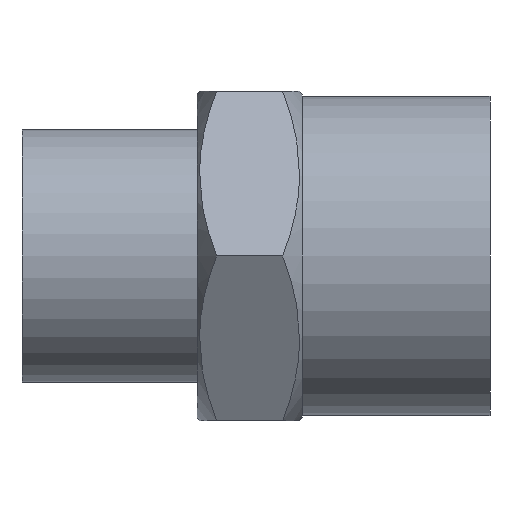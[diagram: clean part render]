
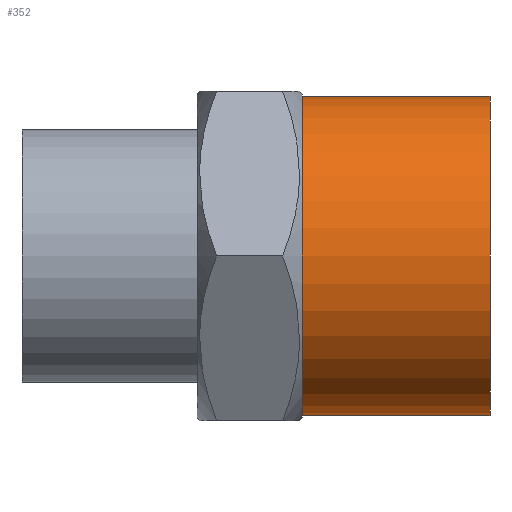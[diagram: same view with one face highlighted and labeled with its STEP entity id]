
A CAD part, left-side view. The second image highlights one B-rep face of the part: STEP entity #352.
In plain terms, the highlighted cylindrical face has radius 8.2 mm (diameter 16.4 mm), a partial arc.
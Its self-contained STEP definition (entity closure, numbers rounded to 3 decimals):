
#47 = VERTEX_POINT ( 'NONE', #343 ) ;
#57 = CIRCLE ( 'NONE', #729, 8.2 ) ;
#59 = EDGE_CURVE ( 'NONE', #47, #635, #483, .T. ) ;
#80 = CARTESIAN_POINT ( 'NONE',  ( 0., -9.66, 0. ) ) ;
#89 = DIRECTION ( 'NONE',  ( 0., -1., 0. ) ) ;
#94 = FACE_OUTER_BOUND ( 'NONE', #579, .T. ) ;
#99 = ORIENTED_EDGE ( 'NONE', *, *, #59, .F. ) ;
#102 = AXIS2_PLACEMENT_3D ( 'NONE', #344, #89, #754 ) ;
#120 = EDGE_CURVE ( 'NONE', #47, #626, #526, .T. ) ;
#161 = CARTESIAN_POINT ( 'NONE',  ( 0., 0., 8.2 ) ) ;
#229 = CARTESIAN_POINT ( 'NONE',  ( 0., -9.66, -8.2 ) ) ;
#231 = EDGE_CURVE ( 'NONE', #635, #840, #834, .T. ) ;
#249 = ORIENTED_EDGE ( 'NONE', *, *, #711, .T. ) ;
#309 = DIRECTION ( 'NONE',  ( 0., 0., -1. ) ) ;
#343 = CARTESIAN_POINT ( 'NONE',  ( 0., -9.66, 8.2 ) ) ;
#344 = CARTESIAN_POINT ( 'NONE',  ( 0., -9.66, 0. ) ) ;
#352 = ADVANCED_FACE ( 'NONE', ( #94 ), #564, .T. ) ;
#382 = CARTESIAN_POINT ( 'NONE',  ( 0., 0., 0. ) ) ;
#407 = CARTESIAN_POINT ( 'NONE',  ( 0., -9.66, 8.2 ) ) ;
#452 = AXIS2_PLACEMENT_3D ( 'NONE', #80, #806, #464 ) ;
#464 = DIRECTION ( 'NONE',  ( 0., 0., 1. ) ) ;
#483 = CIRCLE ( 'NONE', #102, 8.2 ) ;
#490 = ORIENTED_EDGE ( 'NONE', *, *, #120, .T. ) ;
#505 = VECTOR ( 'NONE', #745, 1000. ) ;
#526 = LINE ( 'NONE', #407, #505 ) ;
#564 = CYLINDRICAL_SURFACE ( 'NONE', #452, 8.2 ) ;
#579 = EDGE_LOOP ( 'NONE', ( #705, #99, #490, #249 ) ) ;
#622 = VECTOR ( 'NONE', #728, 1000. ) ;
#626 = VERTEX_POINT ( 'NONE', #161 ) ;
#632 = DIRECTION ( 'NONE',  ( 0., -1., 0. ) ) ;
#635 = VERTEX_POINT ( 'NONE', #229 ) ;
#705 = ORIENTED_EDGE ( 'NONE', *, *, #231, .F. ) ;
#711 = EDGE_CURVE ( 'NONE', #626, #840, #57, .T. ) ;
#727 = CARTESIAN_POINT ( 'NONE',  ( 0., 0., -8.2 ) ) ;
#728 = DIRECTION ( 'NONE',  ( 0., 1., 0. ) ) ;
#729 = AXIS2_PLACEMENT_3D ( 'NONE', #382, #632, #309 ) ;
#745 = DIRECTION ( 'NONE',  ( 0., 1., 0. ) ) ;
#754 = DIRECTION ( 'NONE',  ( 0., 0., -1. ) ) ;
#784 = CARTESIAN_POINT ( 'NONE',  ( 0., -9.66, -8.2 ) ) ;
#806 = DIRECTION ( 'NONE',  ( 0., 1., 0. ) ) ;
#834 = LINE ( 'NONE', #784, #622 ) ;
#840 = VERTEX_POINT ( 'NONE', #727 ) ;
